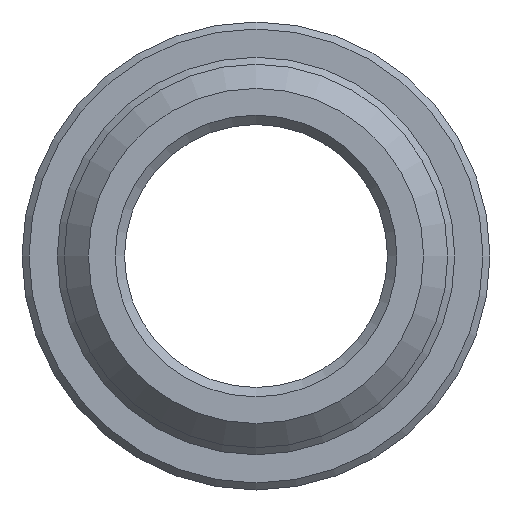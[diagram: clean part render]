
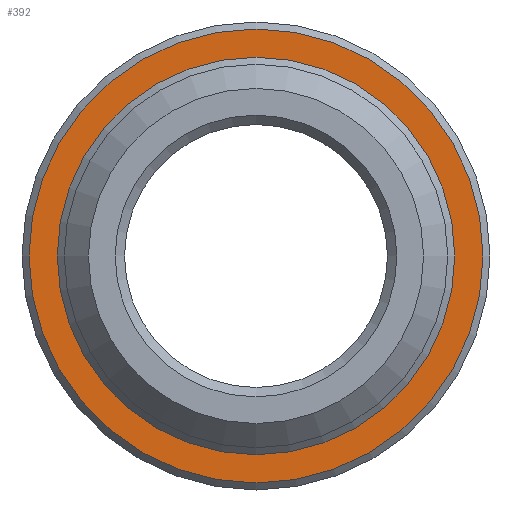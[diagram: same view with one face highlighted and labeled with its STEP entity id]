
A CAD part, front view. The second image highlights one B-rep face of the part: STEP entity #392.
In plain terms, the highlighted planar face has unit normal (0, -1, 0).
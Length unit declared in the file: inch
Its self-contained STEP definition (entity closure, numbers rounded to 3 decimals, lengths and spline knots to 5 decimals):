
#33=FACE_BOUND('',#86,.T.);
#44=PLANE('',#443);
#60=FACE_OUTER_BOUND('',#85,.T.);
#85=EDGE_LOOP('',(#316));
#86=EDGE_LOOP('',(#317));
#158=CIRCLE('',#442,0.4247);
#159=CIRCLE('',#444,0.485);
#195=VERTEX_POINT('',#678);
#196=VERTEX_POINT('',#682);
#243=EDGE_CURVE('',#195,#195,#158,.T.);
#244=EDGE_CURVE('',#196,#196,#159,.T.);
#316=ORIENTED_EDGE('',*,*,#244,.F.);
#317=ORIENTED_EDGE('',*,*,#243,.F.);
#392=ADVANCED_FACE('',(#60,#33),#44,.T.);
#442=AXIS2_PLACEMENT_3D('',#680,#536,#537);
#443=AXIS2_PLACEMENT_3D('',#681,#538,#539);
#444=AXIS2_PLACEMENT_3D('',#683,#540,#541);
#536=DIRECTION('center_axis',(0.,-1.,0.));
#537=DIRECTION('ref_axis',(0.,0.,-1.));
#538=DIRECTION('center_axis',(0.,-1.,0.));
#539=DIRECTION('ref_axis',(0.,0.,-1.));
#540=DIRECTION('center_axis',(0.,1.,0.));
#541=DIRECTION('ref_axis',(0.,0.,1.));
#678=CARTESIAN_POINT('',(0.,5.5,0.4247));
#680=CARTESIAN_POINT('Origin',(0.,5.5,0.));
#681=CARTESIAN_POINT('Origin',(0.,5.5,-0.42));
#682=CARTESIAN_POINT('',(0.,5.5,-0.485));
#683=CARTESIAN_POINT('Origin',(0.,5.5,0.));
